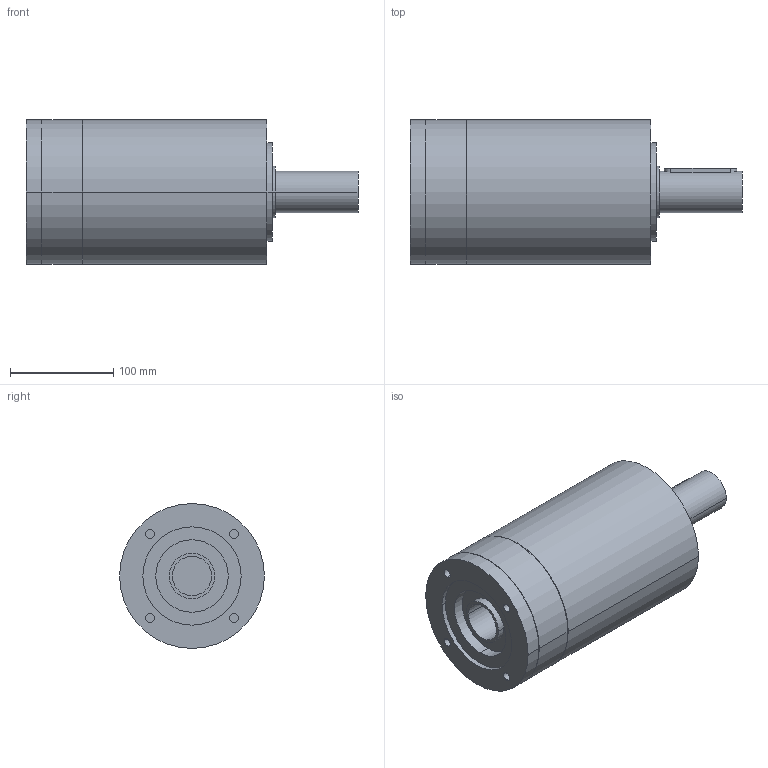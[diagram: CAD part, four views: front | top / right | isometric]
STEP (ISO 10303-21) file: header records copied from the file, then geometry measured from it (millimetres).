
FILE_DESCRIPTION(('CoCreate Modeling STEP Export'),'2;1');
FILE_NAME('GPR150_ig-9-12-16-20-28-35_40_B14_38_P03.stp','2014-08-19T17:04:30',(''),(''),'CoCreate Modeling STEP processor for AP214 (Solid Model)','CoCreate Modeling 16.00C 25-Feb-2009 (C) Parametric Technology GmbH','');
FILE_SCHEMA(('AUTOMOTIVE_DESIGN { 1 0 10303 214 1 1 1 1 }'));
Length unit declared in the file: millimetre
Products named in the file (2): GPR150_ig-9-12-16-20-28-35_40_B14_38_P03
Assembly tree (1 placements, depth 2):
  GPR150_ig-9-12-16-20-28-35_40_B14_38_P03
    GPR150_ig-9-12-16-20-28-35_40_B14_38_P03
Bounding box: 321 x 140 x 140 mm (x, y, z)
Volume: 3563499 mm3; surface area: 167972.9 mm2
Topology: 1 solids, 1 shells, 80 faces, 199 edges, 141 vertices
Faces by surface type: cylinder 48, plane 26, cone 6
Entity records: 2035 total; most frequent: ORIENTED_EDGE 394, CARTESIAN_POINT 390, DIRECTION 262, EDGE_CURVE 197, VERTEX_POINT 141, EDGE_LOOP 102, AXIS2_PLACEMENT_3D 101, FACE_OUTER_BOUND 80
